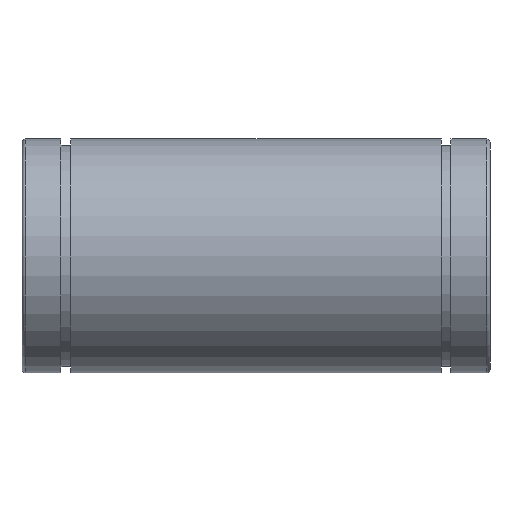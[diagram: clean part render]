
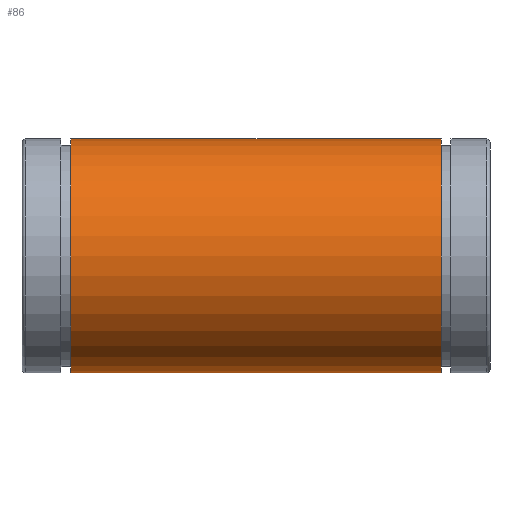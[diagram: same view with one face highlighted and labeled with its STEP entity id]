
A CAD part, front view. The second image highlights one B-rep face of the part: STEP entity #86.
In plain terms, the highlighted cylindrical face has radius 22.5 mm (diameter 45 mm), a full revolution.
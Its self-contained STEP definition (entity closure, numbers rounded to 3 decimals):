
#86=ADVANCED_FACE('',(#123,#124),#125,.T.);
#123=FACE_OUTER_BOUND('',#165,.T.);
#124=FACE_OUTER_BOUND('',#166,.T.);
#125=CYLINDRICAL_SURFACE('',#167,22.5);
#165=EDGE_LOOP('',(#229));
#166=EDGE_LOOP('',(#230));
#167=AXIS2_PLACEMENT_3D('',#231,#232,#233);
#229=ORIENTED_EDGE('',*,*,#257,.F.);
#230=ORIENTED_EDGE('',*,*,#256,.T.);
#231=CARTESIAN_POINT('',(138.191,0.0,0.0));
#232=DIRECTION('',(1.0,-0.0,-0.0));
#233=DIRECTION('',(0.0,1.0,0.0));
#256=EDGE_CURVE('',#282,#282,#283,.T.);
#257=EDGE_CURVE('',#284,#284,#285,.T.);
#282=VERTEX_POINT('',#310);
#283=CIRCLE('',#311,22.5);
#284=VERTEX_POINT('',#312);
#285=CIRCLE('',#313,22.5);
#310=CARTESIAN_POINT('',(102.591,22.5,0.0));
#311=AXIS2_PLACEMENT_3D('',#350,#351,#352);
#312=CARTESIAN_POINT('',(173.791,22.5,0.0));
#313=AXIS2_PLACEMENT_3D('',#353,#354,#355);
#350=CARTESIAN_POINT('',(102.591,0.0,0.0));
#351=DIRECTION('',(1.0,0.0,0.0));
#352=DIRECTION('',(0.0,1.0,0.0));
#353=CARTESIAN_POINT('',(173.791,0.0,0.0));
#354=DIRECTION('',(1.0,0.0,0.0));
#355=DIRECTION('',(0.0,1.0,0.0));
